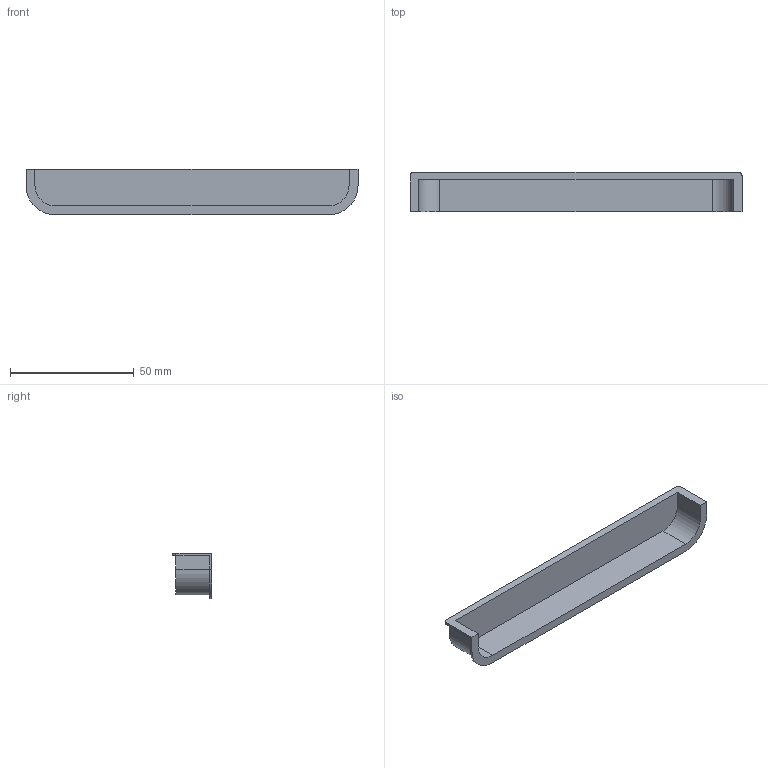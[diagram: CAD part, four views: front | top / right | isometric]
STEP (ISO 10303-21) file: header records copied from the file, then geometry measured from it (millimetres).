
FILE_DESCRIPTION( ( '' ), '1' );
FILE_NAME( 'C:/Documents and Settings/Sachin/Desktop/Sheet 10_1/stp/9145262.stp', '2013-10-22T06:09:21', ( '' ), ( '' ), ' ', ' ', ' ' );
FILE_SCHEMA( ( 'CONFIG_CONTROL_DESIGN' ) );
Length unit declared in the file: millimetre
Products named in the file (1): 1
Bounding box: 134 x 16 x 18.5 mm (x, y, z)
Volume: 7708.3 mm3; surface area: 9778.3 mm2
Topology: 1 solids, 1 shells, 24 faces, 66 edges, 44 vertices
Faces by surface type: plane 16, cylinder 8
Entity records: 810 total; most frequent: CARTESIAN_POINT 135, DIRECTION 132, ORIENTED_EDGE 132, EDGE_CURVE 66, LINE 50, VECTOR 50, VERTEX_POINT 44, AXIS2_PLACEMENT_3D 41
